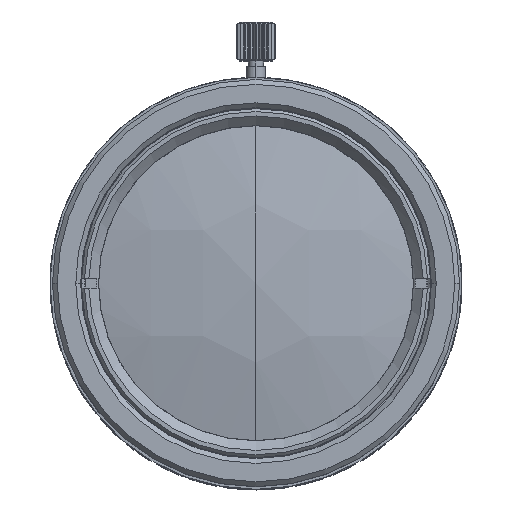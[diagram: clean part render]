
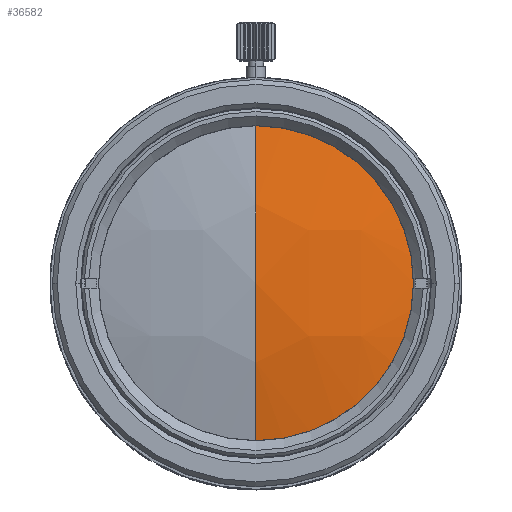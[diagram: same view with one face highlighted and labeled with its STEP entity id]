
A CAD part, top view. The second image highlights one B-rep face of the part: STEP entity #36582.
In plain terms, the highlighted free-form (B-spline) face has degree [3, 3] with [4, 4] control points.
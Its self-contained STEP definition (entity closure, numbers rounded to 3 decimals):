
#4404 = DIRECTION ( 'NONE',  ( 0., 0., 1. ) ) ;
#7142 = CARTESIAN_POINT ( 'NONE',  ( 15.909, -16.427, 78.333 ) ) ;
#7454 = CARTESIAN_POINT ( 'NONE',  ( 11.065, 5.572, 82.033 ) ) ;
#7648 = CARTESIAN_POINT ( 'NONE',  ( 0., 16.235, 80.187 ) ) ;
#8088 = CARTESIAN_POINT ( 'NONE',  ( 5.551, -5.572, 82.66 ) ) ;
#11946 = EDGE_CURVE ( 'NONE', #31927, #16767, #49810, .T. ) ;
#12925 = CARTESIAN_POINT ( 'NONE',  ( 15.909, 16.427, 78.333 ) ) ;
#13031 = AXIS2_PLACEMENT_3D ( 'NONE', #44012, #25069, #44642 ) ;
#13241 = CARTESIAN_POINT ( 'NONE',  ( 0., -16.427, 80.143 ) ) ;
#13361 = AXIS2_PLACEMENT_3D ( 'NONE', #48378, #4404, #52554 ) ;
#16767 = VERTEX_POINT ( 'NONE', #7648 ) ;
#18067 = CARTESIAN_POINT ( 'NONE',  ( 16.474, -5.572, 80.786 ) ) ;
#18561 = ORIENTED_EDGE ( 'NONE', *, *, #43461, .T. ) ;
#23969 = ORIENTED_EDGE ( 'NONE', *, *, #57160, .T. ) ;
#25069 = DIRECTION ( 'NONE',  ( 0., 0., 1. ) ) ;
#27377 = CARTESIAN_POINT ( 'NONE',  ( 0., 5.572, 82.66 ) ) ;
#27494 = DIRECTION ( 'NONE',  ( 0., 1., 0. ) ) ;
#28376 = CARTESIAN_POINT ( 'NONE',  ( 0., -16.235, 80.187 ) ) ;
#31927 = VERTEX_POINT ( 'NONE', #28376 ) ;
#32795 = CARTESIAN_POINT ( 'NONE',  ( 16.474, 5.572, 80.786 ) ) ;
#33858 = CIRCLE ( 'NONE', #13361, 16.235 ) ;
#36459 = DIRECTION ( 'NONE',  ( -1., 0., 0. ) ) ;
#36582 = ADVANCED_FACE ( 'NONE', ( #51126 ), #37108, .T. ) ;
#36963 = CARTESIAN_POINT ( 'NONE',  ( 5.551, 5.572, 82.66 ) ) ;
#37108 =( BOUNDED_SURFACE ( )  B_SPLINE_SURFACE ( 3, 3, ( 
 ( #61660, #57496, #51757, #12925 ),
 ( #27377, #36963, #7454, #32795 ),
 ( #46628, #8088, #42755, #18067 ),
 ( #13241, #57181, #46949, #7142 ) ),
 .UNSPECIFIED., .F., .F., .T. ) 
 B_SPLINE_SURFACE_WITH_KNOTS ( ( 4, 4 ),
 ( 4, 4 ),
 ( 0., 1. ),
 ( 0., 1. ),
 .UNSPECIFIED. ) 
 GEOMETRIC_REPRESENTATION_ITEM ( )  RATIONAL_B_SPLINE_SURFACE ( (
 ( 1., 0.996, 0.996, 1.),
 ( 0.983, 0.979, 0.979, 0.983),
 ( 0.983, 0.979, 0.979, 0.983),
 ( 1., 0.996, 0.996, 1.) ) ) 
 REPRESENTATION_ITEM ( '' )  SURFACE ( )  );
#42755 = CARTESIAN_POINT ( 'NONE',  ( 11.065, -5.572, 82.033 ) ) ;
#43461 = EDGE_CURVE ( 'NONE', #31927, #57409, #33858, .T. ) ;
#44012 = CARTESIAN_POINT ( 'NONE',  ( 0., 0., 80.187 ) ) ;
#44642 = DIRECTION ( 'NONE',  ( 1., 0., 0. ) ) ;
#45797 = ORIENTED_EDGE ( 'NONE', *, *, #11946, .F. ) ;
#46628 = CARTESIAN_POINT ( 'NONE',  ( 0., -5.572, 82.66 ) ) ;
#46949 = CARTESIAN_POINT ( 'NONE',  ( 10.686, -16.427, 79.537 ) ) ;
#47654 = CARTESIAN_POINT ( 'NONE',  ( 16.235, 0., 80.187 ) ) ;
#47894 = CIRCLE ( 'NONE', #13031, 16.235 ) ;
#48378 = CARTESIAN_POINT ( 'NONE',  ( 0., 0., 80.187 ) ) ;
#49810 = CIRCLE ( 'NONE', #62069, 72.7 ) ;
#51126 = FACE_OUTER_BOUND ( 'NONE', #60782, .T. ) ;
#51757 = CARTESIAN_POINT ( 'NONE',  ( 10.686, 16.427, 79.537 ) ) ;
#52554 = DIRECTION ( 'NONE',  ( 1., 0., 0. ) ) ;
#57160 = EDGE_CURVE ( 'NONE', #57409, #16767, #47894, .T. ) ;
#57181 = CARTESIAN_POINT ( 'NONE',  ( 5.36, -16.427, 80.143 ) ) ;
#57409 = VERTEX_POINT ( 'NONE', #47654 ) ;
#57496 = CARTESIAN_POINT ( 'NONE',  ( 5.36, 16.427, 80.143 ) ) ;
#60782 = EDGE_LOOP ( 'NONE', ( #23969, #45797, #18561 ) ) ;
#60845 = CARTESIAN_POINT ( 'NONE',  ( 0., 0., 9.323 ) ) ;
#61660 = CARTESIAN_POINT ( 'NONE',  ( 0., 16.427, 80.143 ) ) ;
#62069 = AXIS2_PLACEMENT_3D ( 'NONE', #60845, #36459, #27494 ) ;
